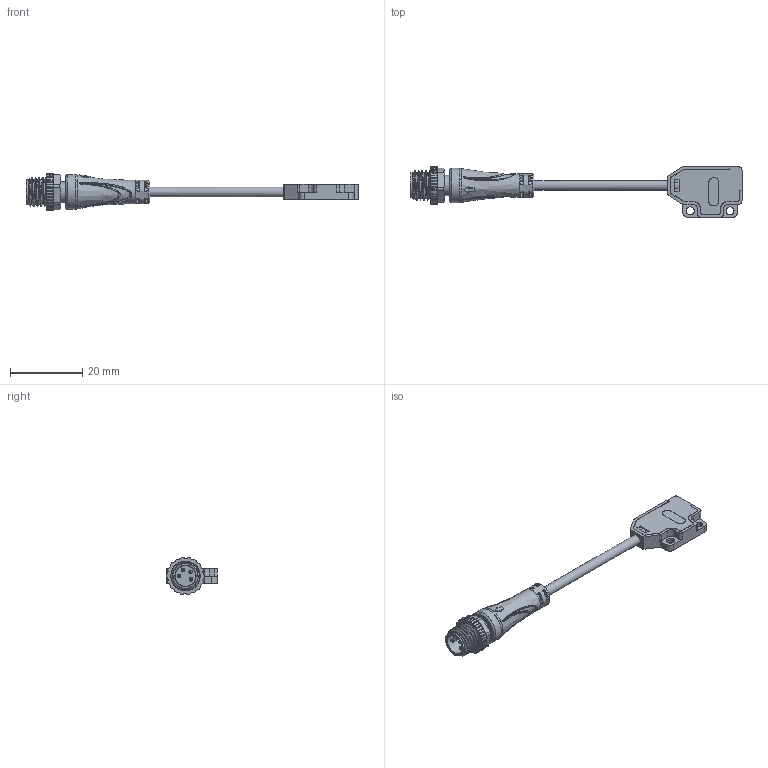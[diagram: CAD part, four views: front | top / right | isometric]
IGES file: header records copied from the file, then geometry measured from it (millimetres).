
Global section: file name: 3DCAD_HT20_X_M8_FL.igs; native system: NX V2306; preprocessor: SIEMENS PLM Software NX2306.1700; date: 20260601.141148; units: millimetre
Bounding box: 91.75 x 14 x 10.34 mm (x, y, z)
Surface area: 3023.5 mm2 (no closed solid volume)
Topology: 0 solids, 0 shells, 657 faces, 4143 edges, 4047 vertices
Faces by surface type: bspline 657
